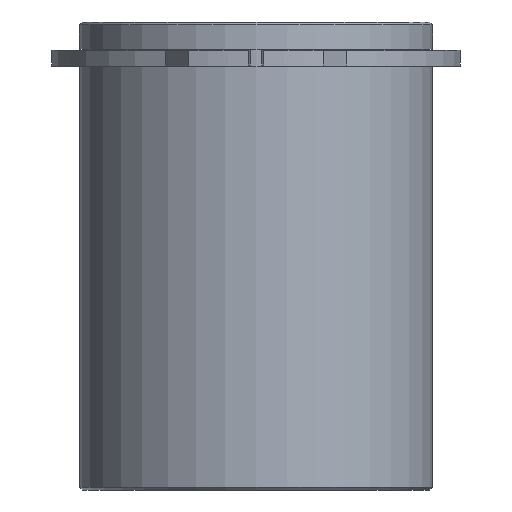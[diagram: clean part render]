
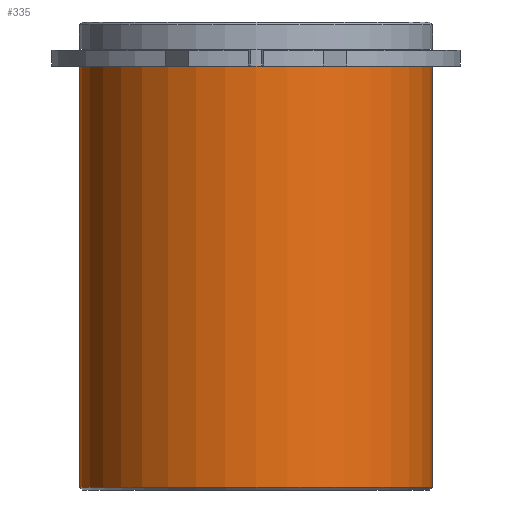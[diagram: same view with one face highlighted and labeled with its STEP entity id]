
A CAD part, front view. The second image highlights one B-rep face of the part: STEP entity #335.
In plain terms, the highlighted cylindrical face has radius 19.625 mm (diameter 39.25 mm), a partial arc.
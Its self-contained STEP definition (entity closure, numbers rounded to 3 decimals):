
#294=CARTESIAN_POINT('',(0.0,0.,-23.4));
#295=DIRECTION('',(0.0,0.,1.0));
#296=DIRECTION('',(1.0,0.0,0.0));
#297=AXIS2_PLACEMENT_3D('',#294,#295,#296);
#298=CYLINDRICAL_SURFACE('',#297,19.625);
#299=CARTESIAN_POINT('',(19.625,0.0,0.0));
#300=VERTEX_POINT('',#299);
#301=CARTESIAN_POINT('',(19.625,0.,-46.8));
#302=VERTEX_POINT('',#301);
#303=CARTESIAN_POINT('',(19.625,0.0,0.0));
#304=DIRECTION('',(0.0,0.0,-1.0));
#305=VECTOR('',#304,46.8);
#306=LINE('',#303,#305);
#307=EDGE_CURVE('',#300,#302,#306,.T.);
#308=ORIENTED_EDGE('',*,*,#307,.F.);
#309=CARTESIAN_POINT('',(-19.625,0.,0.0));
#310=VERTEX_POINT('',#309);
#311=CARTESIAN_POINT('',(0.0,0.0,0.0));
#312=DIRECTION('',(0.0,0.0,1.0));
#313=DIRECTION('',(1.0,0.0,0.0));
#314=AXIS2_PLACEMENT_3D('',#311,#312,#313);
#315=CIRCLE('',#314,19.625);
#316=EDGE_CURVE('',#310,#300,#315,.T.);
#317=ORIENTED_EDGE('',*,*,#316,.F.);
#318=CARTESIAN_POINT('',(-19.625,0.,-46.8));
#319=VERTEX_POINT('',#318);
#320=CARTESIAN_POINT('',(-19.625,0.,0.0));
#321=DIRECTION('',(0.0,0.0,-1.0));
#322=VECTOR('',#321,46.8);
#323=LINE('',#320,#322);
#324=EDGE_CURVE('',#310,#319,#323,.T.);
#325=ORIENTED_EDGE('',*,*,#324,.T.);
#326=CARTESIAN_POINT('',(0.0,0.,-46.8));
#327=DIRECTION('',(0.0,0.0,1.0));
#328=DIRECTION('',(1.0,0.0,0.0));
#329=AXIS2_PLACEMENT_3D('',#326,#327,#328);
#330=CIRCLE('',#329,19.625);
#331=EDGE_CURVE('',#319,#302,#330,.T.);
#332=ORIENTED_EDGE('',*,*,#331,.T.);
#333=EDGE_LOOP('',(#308,#317,#325,#332));
#334=FACE_OUTER_BOUND('',#333,.T.);
#335=ADVANCED_FACE('',(#334),#298,.T.);
